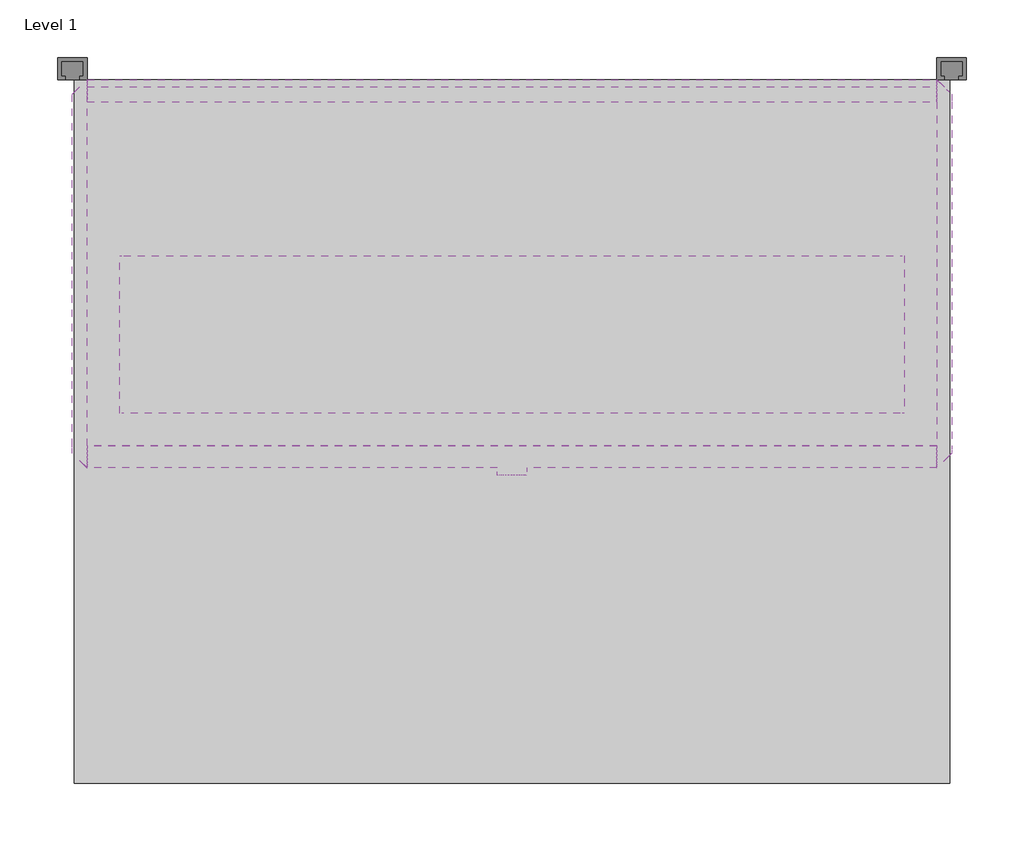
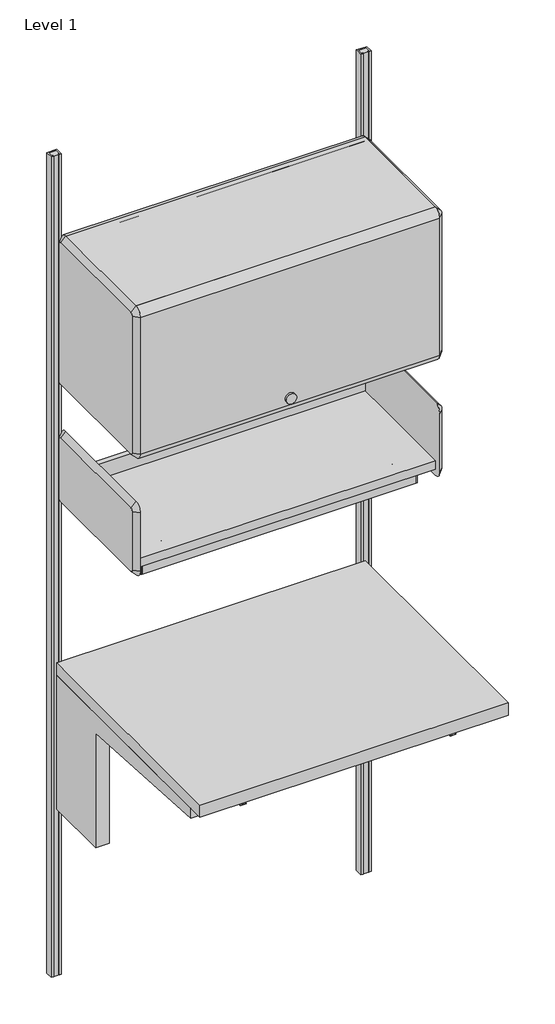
# One storey: 7 furniture elements, 1 light fixture.
"""IFC4 building model written with IfcOpenShell, lengths in millimetres."""

from ifc_helpers import new_model, si_unit, origin, place, context, project, spatial, transform, mapped, element, save
from components import furniture_236c058c, furniture_a8f42cb3, furniture_439713d6, furniture_10db817a, furniture_48dc0a6c, furniture_84h_ea425779, light_fixture_30w_for_action_office_7d6e6015

model = new_model("IFC4")

# Units and contexts
model_context = context("Model", 3, world=origin())
ifc_project = project(units=[si_unit("LENGTHUNIT", "METRE", prefix="MILLI")], contexts=[model_context])

# Site, building, storey
site = spatial("IfcSite", under=ifc_project)
building = spatial("IfcBuilding", under=site)
storey = spatial("IfcBuildingStorey", under=building, Name="Level 1", Elevation=0.0)

# Furniture
placement = place(None, origin())
furniture_shape = furniture_236c058c(model_context)
element("IfcFurniture", 1, ObjectType="HermanMiller_CoStruc_C2141_Heavy-DutyWorkSurface : 24D x 30W Lam", at=placement, inside=storey, context=model_context, shape_type="MappedRepresentation", body=[
    mapped(furniture_shape, transform((304.8, -196.85, 0.0), x_axis=(1.0, 0.0, 0.0), y_axis=(0.0, 1.0, 0.0), z_axis=(0.0, 0.0, 1.0))),
])
furniture_2_shape = furniture_a8f42cb3(model_context)
element("IfcFurniture", 2, ObjectType="HermanMiller_ActionOffice_A3220_B-StyleStorageDisplay : Shelf 13D x 30W", at=placement, inside=storey, context=model_context, shape_type="MappedRepresentation", body=[
    mapped(furniture_2_shape, transform((504.9420045, -200.025, 0.0), x_axis=(1.0, 0.0, 0.0), y_axis=(0.0, 1.0, 0.0), z_axis=(0.0, 0.0, 1.0))),
])
furniture_3_shape = furniture_439713d6(model_context)
element("IfcFurniture", 3, ObjectType="HermanMiller_CoStruc_C2140R_WorkSurfaceSupport_ComponentAdaptorReady : 14H x 24D x 30W", at=placement, inside=storey, context=model_context, shape_type="MappedRepresentation", body=[
    mapped(furniture_3_shape, transform((381.0, -196.85, 0.0), x_axis=(1.0, 0.0, 0.0), y_axis=(0.0, 1.0, 0.0), z_axis=(0.0, 0.0, 1.0))),
])
furniture_4_shape = furniture_10db817a(model_context)
element("IfcFurniture", 4, ObjectType="HermanMiller_CoStruc_B-StyleShelf : 15-1/2H x 13D x 30W", at=placement, inside=storey, context=model_context, shape_type="MappedRepresentation", body=[
    mapped(furniture_4_shape, transform((504.9420045, -200.025, 457.2), x_axis=(1.0, 0.0, 0.0), y_axis=(0.0, 1.0, 0.0), z_axis=(0.0, 0.0, 1.0))),
])
furniture_5_shape = furniture_48dc0a6c(model_context)
element("IfcFurniture", 5, ObjectType="HermanMiller_ActionOffice_B-StyleFlipperDoor : Paint 15-1/2H x 13D x 30W", at=placement, inside=storey, context=model_context, shape_type="MappedRepresentation", body=[
    mapped(furniture_5_shape, transform((381.0, -200.025, 457.2), x_axis=(1.0, 0.0, 0.0), y_axis=(0.0, 1.0, 0.0), z_axis=(0.0, 0.0, 1.0))),
])
furniture_84h_shape = furniture_84h_ea425779(model_context)
element("IfcFurniture", 6, ObjectType="HermanMiller_ActionOffice_AO213_WallStrip : 84H", at=placement, inside=storey, context=model_context, shape_type="MappedRepresentation", body=[
    mapped(furniture_84h_shape, transform((762.0, 0.0, 0.0), x_axis=(1.0, 0.0, 0.0), y_axis=(0.0, 1.0, 0.0), z_axis=(0.0, 0.0, 1.0))),
])
element("IfcFurniture", 7, ObjectType="HermanMiller_ActionOffice_AO213_WallStrip : 84H", at=placement, inside=storey, context=model_context, shape_type="MappedRepresentation", body=[
    mapped(furniture_84h_shape, transform((0.0, 0.0, 0.0), x_axis=(1.0, 0.0, 0.0), y_axis=(0.0, 1.0, 0.0), z_axis=(0.0, 0.0, 1.0))),
])

# Light fixture
light_fixture_30w_for_action_office_shape = light_fixture_30w_for_action_office_7d6e6015(model_context)
element("IfcLightFixture", 8, ObjectType="HermanMiller_SupplementalProducts_G6170_EUnderShelfLEDTaskLight : 30W for Action Office", at=placement, inside=storey, context=model_context, shape_type="MappedRepresentation", body=[
    mapped(light_fixture_30w_for_action_office_shape, transform((381.0, -239.776, 0.0), x_axis=(1.0, 0.0, 0.0), y_axis=(0.0, 1.0, 0.0), z_axis=(0.0, 0.0, 1.0))),
])

save(model, "model.ifc")
